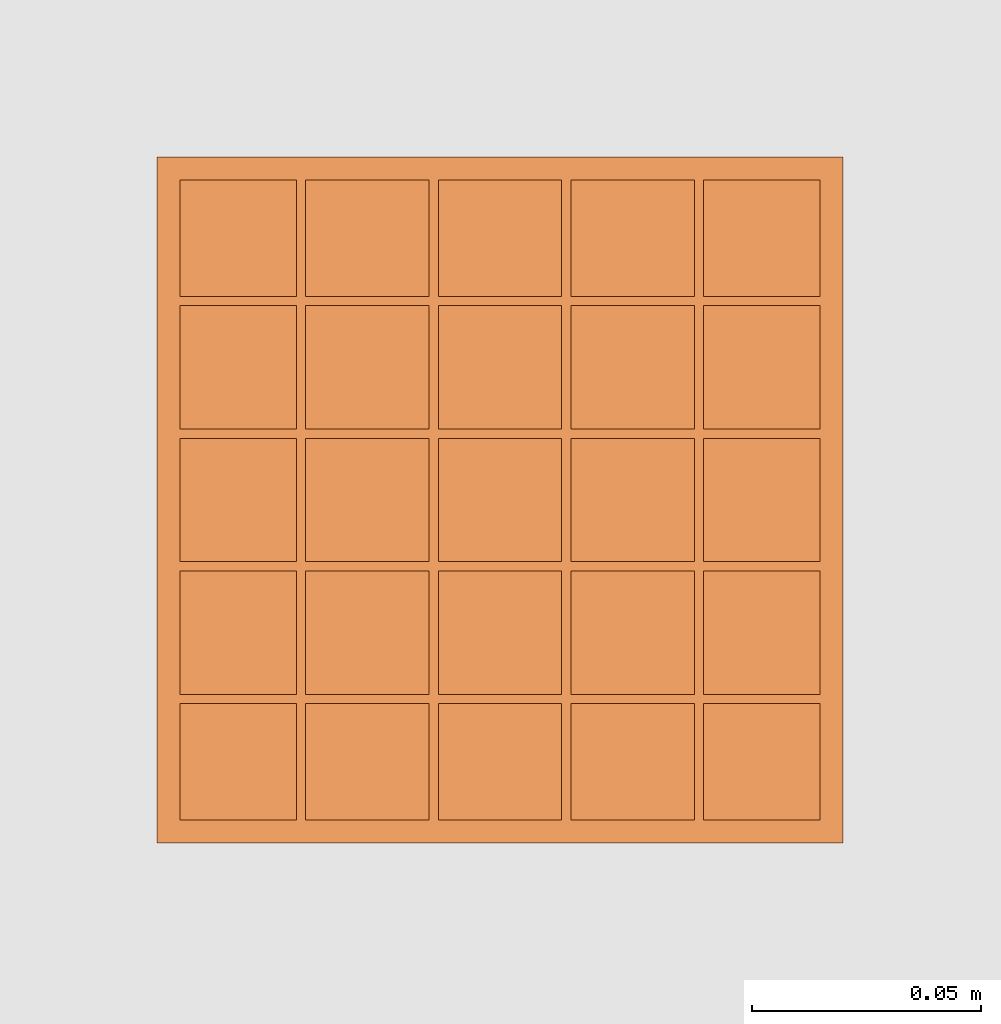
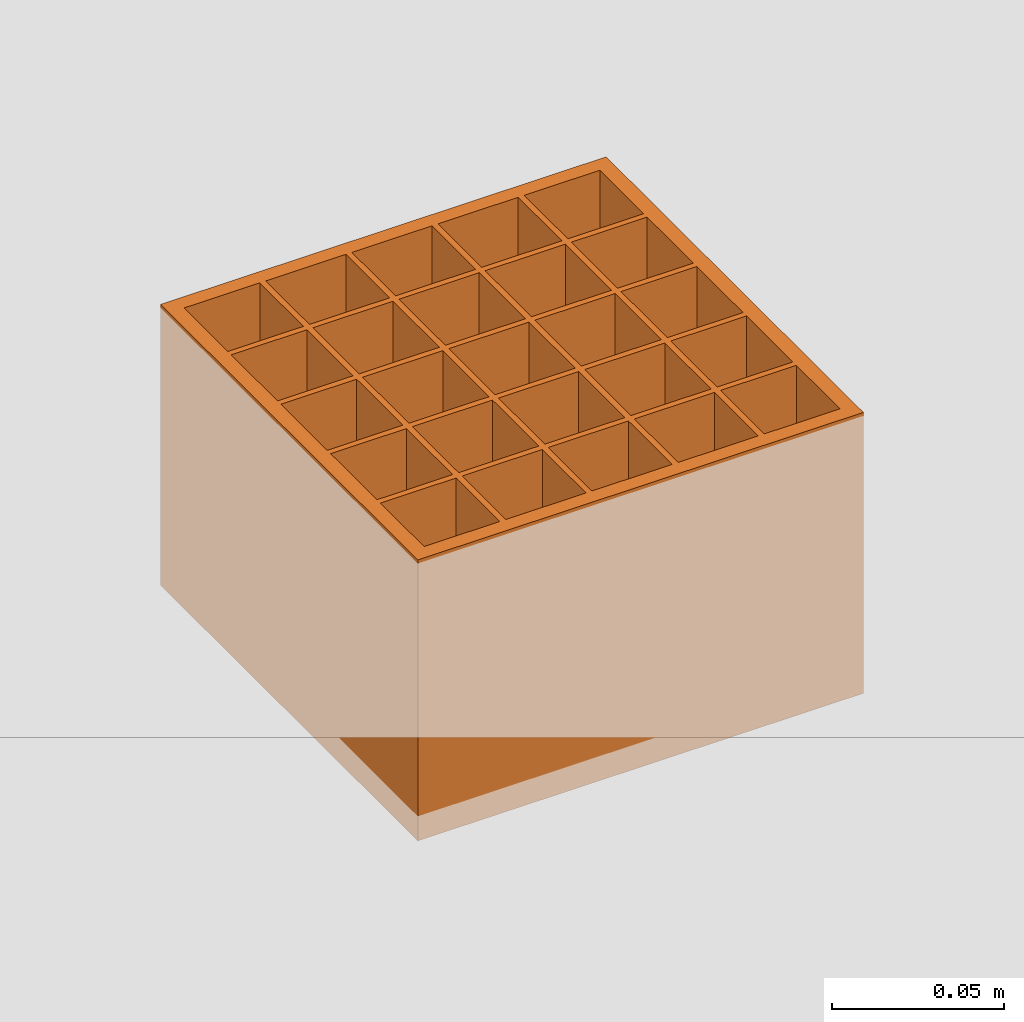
# One storey, part 86 of 100: 1 proxy.
"""IFC2X3 building model written with IfcOpenShell, lengths in millimetres."""

from ifc_helpers import new_model, entity, si_unit, converted_unit, derived_unit, money_unit, direction, frame, origin_with_axes, place, context, subcontext, project, spatial, faceted_brep, source, transform, mapped, type_object, element, save


model = new_model("IFC2X3")

# Units and contexts
model_context = context("Model", 3, precision=0.01, world=origin_with_axes(), true_north=direction((0.0, 1.0)))
body_context = subcontext(model_context, "Body", "Model", "MODEL_VIEW")
ifc_project = project(units=[si_unit("LENGTHUNIT", "METRE", prefix="MILLI"), si_unit("AREAUNIT", "SQUARE_METRE"), si_unit("VOLUMEUNIT", "CUBIC_METRE"), converted_unit("PLANEANGLEUNIT", "DEGREE", entity("IfcPlaneAngleMeasure", 0.0174532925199), si_unit("PLANEANGLEUNIT", "RADIAN"), dimensions=[0, 0, 0, 0, 0, 0, 0]), si_unit("SOLIDANGLEUNIT", "STERADIAN"), money_unit("EUR"), converted_unit("TIMEUNIT", "Year", entity("IfcTimeMeasure", 31556926.0), si_unit("TIMEUNIT", "SECOND"), dimensions=[0, 0, 1, 0, 0, 0, 0]), si_unit("MASSUNIT", "GRAM", prefix="KILO"), si_unit("THERMODYNAMICTEMPERATUREUNIT", "DEGREE_CELSIUS"), si_unit("LUMINOUSINTENSITYUNIT", "LUMEN"), si_unit("ENERGYUNIT", "JOULE", prefix="MEGA"), derived_unit("THERMALCONDUCTANCEUNIT", [(si_unit("POWERUNIT", "WATT"), 1), (si_unit("LENGTHUNIT", "METRE"), -1), (si_unit("THERMODYNAMICTEMPERATUREUNIT", "KELVIN"), -1)]), derived_unit("SPECIFICHEATCAPACITYUNIT", [(si_unit("ENERGYUNIT", "JOULE"), 1), (si_unit("MASSUNIT", "GRAM", prefix="KILO"), -1), (si_unit("THERMODYNAMICTEMPERATUREUNIT", "KELVIN"), -1)]), derived_unit("MASSDENSITYUNIT", [(si_unit("MASSUNIT", "GRAM", prefix="KILO"), 1), (si_unit("VOLUMEUNIT", "CUBIC_METRE"), -1)])], contexts=[model_context])

# Site, building, storey
site_placement = place(None, origin_with_axes())
site = spatial("IfcSite", under=ifc_project, at=site_placement, Name="Politse- ja Piirivalveameti ning Päästeameti ühishoone", CompositionType="ELEMENT")
building_placement = place(site_placement, origin_with_axes())
building = spatial("IfcBuilding", under=site, at=building_placement, Name="Politse- ja Piirivalveameti ning Päästeameti ühishoone", CompositionType="ELEMENT")
storey_placement = place(building_placement, frame((0.0, 0.0, 3800.0), z_axis=(0.0, 0.0, 1.0), x_axis=(1.0, 0.0, 0.0)))
storey = spatial("IfcBuildingStorey", under=building, at=storey_placement, Name="Teine korrus", CompositionType="ELEMENT", Elevation=3800.0)

# Proxy
building_element_proxy_type = type_object("IfcBuildingElementProxyType", Name="Grid 23", PredefinedType="NOTDEFINED")
shared_shape = source(origin_with_axes(), body_context, "Body", "Brep", [
    faceted_brep([(0.0, 0.0, 0.0), (5.0, 5.0, 0.0), (5.0, 5.0, 100.0), (0.0, 0.0, 100.0), (0.0, 150.0, 0.0), (5.0, 145.0, 0.0), (5.0, 119.5, 0.0), (5.0, 117.5, 0.0), (5.0, 90.5, 0.0), (5.0, 88.5, 0.0), (5.0, 61.5, 0.0), (5.0, 59.5, 0.0), (5.0, 32.5, 0.0), (5.0, 30.5, 0.0), (5.0, 30.5, 100.0), (5.0, 32.5, 100.0), (5.0, 59.5, 100.0), (5.0, 61.5, 100.0), (5.0, 88.5, 100.0), (5.0, 90.5, 100.0), (5.0, 117.5, 100.0), (5.0, 119.5, 100.0), (5.0, 145.0, 100.0), (0.0, 150.0, 100.0)], [[[0, 1, 2, 3]], [[0, 4, 5, 6, 7, 8, 9, 10, 11, 12, 13, 1]], [[1, 13, 14, 2]], [[3, 2, 14, 15, 16, 17, 18, 19, 20, 21, 22, 23]], [[4, 0, 3, 23]], [[5, 4, 23, 22]], [[6, 5, 22, 21]], [[7, 6, 21, 20]], [[8, 7, 20, 19]], [[9, 8, 19, 18]], [[10, 9, 18, 17]], [[11, 10, 17, 16]], [[12, 11, 16, 15]], [[13, 12, 15, 14]]]),
    faceted_brep([(150.0, 150.0, 0.0), (145.0, 145.0, 0.0), (145.0, 145.0, 100.0), (150.0, 150.0, 100.0), (150.0, 0.0, 0.0), (145.0, 5.0, 0.0), (145.0, 30.5, 0.0), (145.0, 32.5, 0.0), (145.0, 59.5, 0.0), (145.0, 61.5, 0.0), (145.0, 88.5, 0.0), (145.0, 90.5, 0.0), (145.0, 117.5, 0.0), (145.0, 119.5, 0.0), (145.0, 119.5, 100.0), (145.0, 117.5, 100.0), (145.0, 90.5, 100.0), (145.0, 88.5, 100.0), (145.0, 61.5, 100.0), (145.0, 59.5, 100.0), (145.0, 32.5, 100.0), (145.0, 30.5, 100.0), (145.0, 5.0, 100.0), (150.0, 0.0, 100.0)], [[[0, 1, 2, 3]], [[0, 4, 5, 6, 7, 8, 9, 10, 11, 12, 13, 1]], [[1, 13, 14, 2]], [[3, 2, 14, 15, 16, 17, 18, 19, 20, 21, 22, 23]], [[4, 0, 3, 23]], [[5, 4, 23, 22]], [[6, 5, 22, 21]], [[7, 6, 21, 20]], [[8, 7, 20, 19]], [[9, 8, 19, 18]], [[10, 9, 18, 17]], [[11, 10, 17, 16]], [[12, 11, 16, 15]], [[13, 12, 15, 14]]]),
    faceted_brep([(150.0, 0.0, 0.0), (145.0, 5.0, 0.0), (145.0, 5.0, 100.0), (150.0, 0.0, 100.0), (0.0, 0.0, 0.0), (5.0, 5.0, 0.0), (30.5, 5.0, 0.0), (32.5, 5.0, 0.0), (59.5, 5.0, 0.0), (61.5, 5.0, 0.0), (88.5, 5.0, 0.0), (90.5, 5.0, 0.0), (117.5, 5.0, 0.0), (119.5, 5.0, 0.0), (119.5, 5.0, 100.0), (117.5, 5.0, 100.0), (90.5, 5.0, 100.0), (88.5, 5.0, 100.0), (61.5, 5.0, 100.0), (59.5, 5.0, 100.0), (32.5, 5.0, 100.0), (30.5, 5.0, 100.0), (5.0, 5.0, 100.0), (0.0, 0.0, 100.0)], [[[0, 1, 2, 3]], [[0, 4, 5, 6, 7, 8, 9, 10, 11, 12, 13, 1]], [[1, 13, 14, 2]], [[3, 2, 14, 15, 16, 17, 18, 19, 20, 21, 22, 23]], [[4, 0, 3, 23]], [[5, 4, 23, 22]], [[6, 5, 22, 21]], [[7, 6, 21, 20]], [[8, 7, 20, 19]], [[9, 8, 19, 18]], [[10, 9, 18, 17]], [[11, 10, 17, 16]], [[12, 11, 16, 15]], [[13, 12, 15, 14]]]),
    faceted_brep([(0.0, 150.0, 0.0), (5.0, 145.0, 0.0), (5.0, 145.0, 100.0), (0.0, 150.0, 100.0), (150.0, 150.0, 0.0), (145.0, 145.0, 0.0), (119.5, 145.0, 0.0), (117.5, 145.0, 0.0), (90.5, 145.0, 0.0), (88.5, 145.0, 0.0), (61.5, 145.0, 0.0), (59.5, 145.0, 0.0), (32.5, 145.0, 0.0), (30.5, 145.0, 0.0), (30.5, 145.0, 100.0), (32.5, 145.0, 100.0), (59.5, 145.0, 100.0), (61.5, 145.0, 100.0), (88.5, 145.0, 100.0), (90.5, 145.0, 100.0), (117.5, 145.0, 100.0), (119.5, 145.0, 100.0), (145.0, 145.0, 100.0), (150.0, 150.0, 100.0)], [[[0, 1, 2, 3]], [[0, 4, 5, 6, 7, 8, 9, 10, 11, 12, 13, 1]], [[1, 13, 14, 2]], [[3, 2, 14, 15, 16, 17, 18, 19, 20, 21, 22, 23]], [[4, 0, 3, 23]], [[5, 4, 23, 22]], [[6, 5, 22, 21]], [[7, 6, 21, 20]], [[8, 7, 20, 19]], [[9, 8, 19, 18]], [[10, 9, 18, 17]], [[11, 10, 17, 16]], [[12, 11, 16, 15]], [[13, 12, 15, 14]]]),
    faceted_brep([(30.5, 5.0, 0.0), (32.5, 5.0, 0.0), (32.5, 5.0, 100.0), (30.5, 5.0, 100.0), (30.5, 30.5, 0.0), (30.5, 32.5, 0.0), (30.5, 59.5, 0.0), (30.5, 61.5, 0.0), (30.5, 88.5, 0.0), (30.5, 90.5, 0.0), (30.5, 117.5, 0.0), (30.5, 119.5, 0.0), (30.5, 145.0, 0.0), (32.5, 145.0, 0.0), (32.5, 119.5, 0.0), (32.5, 117.5, 0.0), (32.5, 90.5, 0.0), (32.5, 88.5, 0.0), (32.5, 61.5, 0.0), (32.5, 59.5, 0.0), (32.5, 32.5, 0.0), (32.5, 30.5, 0.0), (32.5, 30.5, 100.0), (32.5, 32.5, 100.0), (32.5, 59.5, 100.0), (32.5, 61.5, 100.0), (32.5, 88.5, 100.0), (32.5, 90.5, 100.0), (32.5, 117.5, 100.0), (32.5, 119.5, 100.0), (32.5, 145.0, 100.0), (30.5, 145.0, 100.0), (30.5, 119.5, 100.0), (30.5, 117.5, 100.0), (30.5, 90.5, 100.0), (30.5, 88.5, 100.0), (30.5, 61.5, 100.0), (30.5, 59.5, 100.0), (30.5, 32.5, 100.0), (30.5, 30.5, 100.0)], [[[0, 1, 2, 3]], [[0, 4, 5, 6, 7, 8, 9, 10, 11, 12, 13, 14, 15, 16, 17, 18, 19, 20, 21, 1]], [[1, 21, 22, 2]], [[3, 2, 22, 23, 24, 25, 26, 27, 28, 29, 30, 31, 32, 33, 34, 35, 36, 37, 38, 39]], [[4, 0, 3, 39]], [[5, 4, 39, 38]], [[6, 5, 38, 37]], [[7, 6, 37, 36]], [[8, 7, 36, 35]], [[9, 8, 35, 34]], [[10, 9, 34, 33]], [[11, 10, 33, 32]], [[12, 11, 32, 31]], [[13, 12, 31, 30]], [[14, 13, 30, 29]], [[15, 14, 29, 28]], [[16, 15, 28, 27]], [[17, 16, 27, 26]], [[18, 17, 26, 25]], [[19, 18, 25, 24]], [[20, 19, 24, 23]], [[21, 20, 23, 22]]]),
    faceted_brep([(59.5, 5.0, 0.0), (61.5, 5.0, 0.0), (61.5, 5.0, 100.0), (59.5, 5.0, 100.0), (59.5, 30.5, 0.0), (59.5, 32.5, 0.0), (59.5, 59.5, 0.0), (59.5, 61.5, 0.0), (59.5, 88.5, 0.0), (59.5, 90.5, 0.0), (59.5, 117.5, 0.0), (59.5, 119.5, 0.0), (59.5, 145.0, 0.0), (61.5, 145.0, 0.0), (61.5, 119.5, 0.0), (61.5, 117.5, 0.0), (61.5, 90.5, 0.0), (61.5, 88.5, 0.0), (61.5, 61.5, 0.0), (61.5, 59.5, 0.0), (61.5, 32.5, 0.0), (61.5, 30.5, 0.0), (61.5, 30.5, 100.0), (61.5, 32.5, 100.0), (61.5, 59.5, 100.0), (61.5, 61.5, 100.0), (61.5, 88.5, 100.0), (61.5, 90.5, 100.0), (61.5, 117.5, 100.0), (61.5, 119.5, 100.0), (61.5, 145.0, 100.0), (59.5, 145.0, 100.0), (59.5, 119.5, 100.0), (59.5, 117.5, 100.0), (59.5, 90.5, 100.0), (59.5, 88.5, 100.0), (59.5, 61.5, 100.0), (59.5, 59.5, 100.0), (59.5, 32.5, 100.0), (59.5, 30.5, 100.0)], [[[0, 1, 2, 3]], [[0, 4, 5, 6, 7, 8, 9, 10, 11, 12, 13, 14, 15, 16, 17, 18, 19, 20, 21, 1]], [[1, 21, 22, 2]], [[3, 2, 22, 23, 24, 25, 26, 27, 28, 29, 30, 31, 32, 33, 34, 35, 36, 37, 38, 39]], [[4, 0, 3, 39]], [[5, 4, 39, 38]], [[6, 5, 38, 37]], [[7, 6, 37, 36]], [[8, 7, 36, 35]], [[9, 8, 35, 34]], [[10, 9, 34, 33]], [[11, 10, 33, 32]], [[12, 11, 32, 31]], [[13, 12, 31, 30]], [[14, 13, 30, 29]], [[15, 14, 29, 28]], [[16, 15, 28, 27]], [[17, 16, 27, 26]], [[18, 17, 26, 25]], [[19, 18, 25, 24]], [[20, 19, 24, 23]], [[21, 20, 23, 22]]]),
    faceted_brep([(88.5, 5.0, 0.0), (90.5, 5.0, 0.0), (90.5, 5.0, 100.0), (88.5, 5.0, 100.0), (88.5, 30.5, 0.0), (88.5, 32.5, 0.0), (88.5, 59.5, 0.0), (88.5, 61.5, 0.0), (88.5, 88.5, 0.0), (88.5, 90.5, 0.0), (88.5, 117.5, 0.0), (88.5, 119.5, 0.0), (88.5, 145.0, 0.0), (90.5, 145.0, 0.0), (90.5, 119.5, 0.0), (90.5, 117.5, 0.0), (90.5, 90.5, 0.0), (90.5, 88.5, 0.0), (90.5, 61.5, 0.0), (90.5, 59.5, 0.0), (90.5, 32.5, 0.0), (90.5, 30.5, 0.0), (90.5, 30.5, 100.0), (90.5, 32.5, 100.0), (90.5, 59.5, 100.0), (90.5, 61.5, 100.0), (90.5, 88.5, 100.0), (90.5, 90.5, 100.0), (90.5, 117.5, 100.0), (90.5, 119.5, 100.0), (90.5, 145.0, 100.0), (88.5, 145.0, 100.0), (88.5, 119.5, 100.0), (88.5, 117.5, 100.0), (88.5, 90.5, 100.0), (88.5, 88.5, 100.0), (88.5, 61.5, 100.0), (88.5, 59.5, 100.0), (88.5, 32.5, 100.0), (88.5, 30.5, 100.0)], [[[0, 1, 2, 3]], [[0, 4, 5, 6, 7, 8, 9, 10, 11, 12, 13, 14, 15, 16, 17, 18, 19, 20, 21, 1]], [[1, 21, 22, 2]], [[3, 2, 22, 23, 24, 25, 26, 27, 28, 29, 30, 31, 32, 33, 34, 35, 36, 37, 38, 39]], [[4, 0, 3, 39]], [[5, 4, 39, 38]], [[6, 5, 38, 37]], [[7, 6, 37, 36]], [[8, 7, 36, 35]], [[9, 8, 35, 34]], [[10, 9, 34, 33]], [[11, 10, 33, 32]], [[12, 11, 32, 31]], [[13, 12, 31, 30]], [[14, 13, 30, 29]], [[15, 14, 29, 28]], [[16, 15, 28, 27]], [[17, 16, 27, 26]], [[18, 17, 26, 25]], [[19, 18, 25, 24]], [[20, 19, 24, 23]], [[21, 20, 23, 22]]]),
    faceted_brep([(117.5, 5.0, 0.0), (119.5, 5.0, 0.0), (119.5, 5.0, 100.0), (117.5, 5.0, 100.0), (117.5, 30.5, 0.0), (117.5, 32.5, 0.0), (117.5, 59.5, 0.0), (117.5, 61.5, 0.0), (117.5, 88.5, 0.0), (117.5, 90.5, 0.0), (117.5, 117.5, 0.0), (117.5, 119.5, 0.0), (117.5, 145.0, 0.0), (119.5, 145.0, 0.0), (119.5, 119.5, 0.0), (119.5, 117.5, 0.0), (119.5, 90.5, 0.0), (119.5, 88.5, 0.0), (119.5, 61.5, 0.0), (119.5, 59.5, 0.0), (119.5, 32.5, 0.0), (119.5, 30.5, 0.0), (119.5, 30.5, 100.0), (119.5, 32.5, 100.0), (119.5, 59.5, 100.0), (119.5, 61.5, 100.0), (119.5, 88.5, 100.0), (119.5, 90.5, 100.0), (119.5, 117.5, 100.0), (119.5, 119.5, 100.0), (119.5, 145.0, 100.0), (117.5, 145.0, 100.0), (117.5, 119.5, 100.0), (117.5, 117.5, 100.0), (117.5, 90.5, 100.0), (117.5, 88.5, 100.0), (117.5, 61.5, 100.0), (117.5, 59.5, 100.0), (117.5, 32.5, 100.0), (117.5, 30.5, 100.0)], [[[0, 1, 2, 3]], [[0, 4, 5, 6, 7, 8, 9, 10, 11, 12, 13, 14, 15, 16, 17, 18, 19, 20, 21, 1]], [[1, 21, 22, 2]], [[3, 2, 22, 23, 24, 25, 26, 27, 28, 29, 30, 31, 32, 33, 34, 35, 36, 37, 38, 39]], [[4, 0, 3, 39]], [[5, 4, 39, 38]], [[6, 5, 38, 37]], [[7, 6, 37, 36]], [[8, 7, 36, 35]], [[9, 8, 35, 34]], [[10, 9, 34, 33]], [[11, 10, 33, 32]], [[12, 11, 32, 31]], [[13, 12, 31, 30]], [[14, 13, 30, 29]], [[15, 14, 29, 28]], [[16, 15, 28, 27]], [[17, 16, 27, 26]], [[18, 17, 26, 25]], [[19, 18, 25, 24]], [[20, 19, 24, 23]], [[21, 20, 23, 22]]]),
    faceted_brep([(30.5, 30.5, 0.0), (30.5, 32.5, 0.0), (30.5, 32.5, 100.0), (30.5, 30.5, 100.0), (5.0, 30.5, 0.0), (5.0, 32.5, 0.0), (5.0, 32.5, 100.0), (5.0, 30.5, 100.0)], [[[0, 1, 2, 3]], [[0, 4, 5, 1]], [[1, 5, 6, 2]], [[3, 2, 6, 7]], [[4, 0, 3, 7]], [[5, 4, 7, 6]]]),
    faceted_brep([(30.5, 59.5, 0.0), (30.5, 61.5, 0.0), (30.5, 61.5, 100.0), (30.5, 59.5, 100.0), (5.0, 59.5, 0.0), (5.0, 61.5, 0.0), (5.0, 61.5, 100.0), (5.0, 59.5, 100.0)], [[[0, 1, 2, 3]], [[0, 4, 5, 1]], [[1, 5, 6, 2]], [[3, 2, 6, 7]], [[4, 0, 3, 7]], [[5, 4, 7, 6]]]),
    faceted_brep([(30.5, 88.5, 0.0), (30.5, 90.5, 0.0), (30.5, 90.5, 100.0), (30.5, 88.5, 100.0), (5.0, 88.5, 0.0), (5.0, 90.5, 0.0), (5.0, 90.5, 100.0), (5.0, 88.5, 100.0)], [[[0, 1, 2, 3]], [[0, 4, 5, 1]], [[1, 5, 6, 2]], [[3, 2, 6, 7]], [[4, 0, 3, 7]], [[5, 4, 7, 6]]]),
    faceted_brep([(30.5, 117.5, 0.0), (30.5, 119.5, 0.0), (30.5, 119.5, 100.0), (30.5, 117.5, 100.0), (5.0, 117.5, 0.0), (5.0, 119.5, 0.0), (5.0, 119.5, 100.0), (5.0, 117.5, 100.0)], [[[0, 1, 2, 3]], [[0, 4, 5, 1]], [[1, 5, 6, 2]], [[3, 2, 6, 7]], [[4, 0, 3, 7]], [[5, 4, 7, 6]]]),
    faceted_brep([(59.5, 30.5, 0.0), (59.5, 32.5, 0.0), (59.5, 32.5, 100.0), (59.5, 30.5, 100.0), (32.5, 30.5, 0.0), (32.5, 32.5, 0.0), (32.5, 32.5, 100.0), (32.5, 30.5, 100.0)], [[[0, 1, 2, 3]], [[0, 4, 5, 1]], [[1, 5, 6, 2]], [[3, 2, 6, 7]], [[4, 0, 3, 7]], [[5, 4, 7, 6]]]),
    faceted_brep([(59.5, 59.5, 0.0), (59.5, 61.5, 0.0), (59.5, 61.5, 100.0), (59.5, 59.5, 100.0), (32.5, 59.5, 0.0), (32.5, 61.5, 0.0), (32.5, 61.5, 100.0), (32.5, 59.5, 100.0)], [[[0, 1, 2, 3]], [[0, 4, 5, 1]], [[1, 5, 6, 2]], [[3, 2, 6, 7]], [[4, 0, 3, 7]], [[5, 4, 7, 6]]]),
    faceted_brep([(59.5, 88.5, 0.0), (59.5, 90.5, 0.0), (59.5, 90.5, 100.0), (59.5, 88.5, 100.0), (32.5, 88.5, 0.0), (32.5, 90.5, 0.0), (32.5, 90.5, 100.0), (32.5, 88.5, 100.0)], [[[0, 1, 2, 3]], [[0, 4, 5, 1]], [[1, 5, 6, 2]], [[3, 2, 6, 7]], [[4, 0, 3, 7]], [[5, 4, 7, 6]]]),
    faceted_brep([(59.5, 117.5, 0.0), (59.5, 119.5, 0.0), (59.5, 119.5, 100.0), (59.5, 117.5, 100.0), (32.5, 117.5, 0.0), (32.5, 119.5, 0.0), (32.5, 119.5, 100.0), (32.5, 117.5, 100.0)], [[[0, 1, 2, 3]], [[0, 4, 5, 1]], [[1, 5, 6, 2]], [[3, 2, 6, 7]], [[4, 0, 3, 7]], [[5, 4, 7, 6]]]),
    faceted_brep([(88.5, 30.5, 0.0), (88.5, 32.5, 0.0), (88.5, 32.5, 100.0), (88.5, 30.5, 100.0), (61.5, 30.5, 0.0), (61.5, 32.5, 0.0), (61.5, 32.5, 100.0), (61.5, 30.5, 100.0)], [[[0, 1, 2, 3]], [[0, 4, 5, 1]], [[1, 5, 6, 2]], [[3, 2, 6, 7]], [[4, 0, 3, 7]], [[5, 4, 7, 6]]]),
    faceted_brep([(88.5, 59.5, 0.0), (88.5, 61.5, 0.0), (88.5, 61.5, 100.0), (88.5, 59.5, 100.0), (61.5, 59.5, 0.0), (61.5, 61.5, 0.0), (61.5, 61.5, 100.0), (61.5, 59.5, 100.0)], [[[0, 1, 2, 3]], [[0, 4, 5, 1]], [[1, 5, 6, 2]], [[3, 2, 6, 7]], [[4, 0, 3, 7]], [[5, 4, 7, 6]]]),
    faceted_brep([(88.5, 88.5, 0.0), (88.5, 90.5, 0.0), (88.5, 90.5, 100.0), (88.5, 88.5, 100.0), (61.5, 88.5, 0.0), (61.5, 90.5, 0.0), (61.5, 90.5, 100.0), (61.5, 88.5, 100.0)], [[[0, 1, 2, 3]], [[0, 4, 5, 1]], [[1, 5, 6, 2]], [[3, 2, 6, 7]], [[4, 0, 3, 7]], [[5, 4, 7, 6]]]),
    faceted_brep([(88.5, 117.5, 0.0), (88.5, 119.5, 0.0), (88.5, 119.5, 100.0), (88.5, 117.5, 100.0), (61.5, 117.5, 0.0), (61.5, 119.5, 0.0), (61.5, 119.5, 100.0), (61.5, 117.5, 100.0)], [[[0, 1, 2, 3]], [[0, 4, 5, 1]], [[1, 5, 6, 2]], [[3, 2, 6, 7]], [[4, 0, 3, 7]], [[5, 4, 7, 6]]]),
    faceted_brep([(117.5, 30.5, 0.0), (117.5, 32.5, 0.0), (117.5, 32.5, 100.0), (117.5, 30.5, 100.0), (90.5, 30.5, 0.0), (90.5, 32.5, 0.0), (90.5, 32.5, 100.0), (90.5, 30.5, 100.0)], [[[0, 1, 2, 3]], [[0, 4, 5, 1]], [[1, 5, 6, 2]], [[3, 2, 6, 7]], [[4, 0, 3, 7]], [[5, 4, 7, 6]]]),
    faceted_brep([(117.5, 59.5, 0.0), (117.5, 61.5, 0.0), (117.5, 61.5, 100.0), (117.5, 59.5, 100.0), (90.5, 59.5, 0.0), (90.5, 61.5, 0.0), (90.5, 61.5, 100.0), (90.5, 59.5, 100.0)], [[[0, 1, 2, 3]], [[0, 4, 5, 1]], [[1, 5, 6, 2]], [[3, 2, 6, 7]], [[4, 0, 3, 7]], [[5, 4, 7, 6]]]),
    faceted_brep([(117.5, 88.5, 0.0), (117.5, 90.5, 0.0), (117.5, 90.5, 100.0), (117.5, 88.5, 100.0), (90.5, 88.5, 0.0), (90.5, 90.5, 0.0), (90.5, 90.5, 100.0), (90.5, 88.5, 100.0)], [[[0, 1, 2, 3]], [[0, 4, 5, 1]], [[1, 5, 6, 2]], [[3, 2, 6, 7]], [[4, 0, 3, 7]], [[5, 4, 7, 6]]]),
    faceted_brep([(117.5, 117.5, 0.0), (117.5, 119.5, 0.0), (117.5, 119.5, 100.0), (117.5, 117.5, 100.0), (90.5, 117.5, 0.0), (90.5, 119.5, 0.0), (90.5, 119.5, 100.0), (90.5, 117.5, 100.0)], [[[0, 1, 2, 3]], [[0, 4, 5, 1]], [[1, 5, 6, 2]], [[3, 2, 6, 7]], [[4, 0, 3, 7]], [[5, 4, 7, 6]]]),
    faceted_brep([(145.0, 30.5, 0.0), (145.0, 32.5, 0.0), (145.0, 32.5, 100.0), (145.0, 30.5, 100.0), (119.5, 30.5, 0.0), (119.5, 32.5, 0.0), (119.5, 32.5, 100.0), (119.5, 30.5, 100.0)], [[[0, 1, 2, 3]], [[0, 4, 5, 1]], [[1, 5, 6, 2]], [[3, 2, 6, 7]], [[4, 0, 3, 7]], [[5, 4, 7, 6]]]),
    faceted_brep([(145.0, 59.5, 0.0), (145.0, 61.5, 0.0), (145.0, 61.5, 100.0), (145.0, 59.5, 100.0), (119.5, 59.5, 0.0), (119.5, 61.5, 0.0), (119.5, 61.5, 100.0), (119.5, 59.5, 100.0)], [[[0, 1, 2, 3]], [[0, 4, 5, 1]], [[1, 5, 6, 2]], [[3, 2, 6, 7]], [[4, 0, 3, 7]], [[5, 4, 7, 6]]]),
    faceted_brep([(145.0, 88.5, 0.0), (145.0, 90.5, 0.0), (145.0, 90.5, 100.0), (145.0, 88.5, 100.0), (119.5, 88.5, 0.0), (119.5, 90.5, 0.0), (119.5, 90.5, 100.0), (119.5, 88.5, 100.0)], [[[0, 1, 2, 3]], [[0, 4, 5, 1]], [[1, 5, 6, 2]], [[3, 2, 6, 7]], [[4, 0, 3, 7]], [[5, 4, 7, 6]]]),
    faceted_brep([(145.0, 117.5, 0.0), (145.0, 119.5, 0.0), (145.0, 119.5, 100.0), (145.0, 117.5, 100.0), (119.5, 117.5, 0.0), (119.5, 119.5, 0.0), (119.5, 119.5, 100.0), (119.5, 117.5, 100.0)], [[[0, 1, 2, 3]], [[0, 4, 5, 1]], [[1, 5, 6, 2]], [[3, 2, 6, 7]], [[4, 0, 3, 7]], [[5, 4, 7, 6]]]),
    faceted_brep([(5.0, 5.0, 43.65), (30.5, 5.0, 43.65), (30.5, 5.0, 56.35), (5.0, 5.0, 56.35), (5.0, 30.5, 43.65), (30.5, 30.5, 43.65), (30.5, 30.5, 56.35), (5.0, 30.5, 56.35)], [[[0, 1, 2, 3]], [[0, 4, 5, 1]], [[1, 5, 6, 2]], [[3, 2, 6, 7]], [[4, 0, 3, 7]], [[5, 4, 7, 6]]]),
    faceted_brep([(5.0, 32.5, 43.65), (30.5, 32.5, 43.65), (30.5, 32.5, 56.35), (5.0, 32.5, 56.35), (5.0, 59.5, 43.65), (30.5, 59.5, 43.65), (30.5, 59.5, 56.35), (5.0, 59.5, 56.35)], [[[0, 1, 2, 3]], [[0, 4, 5, 1]], [[1, 5, 6, 2]], [[3, 2, 6, 7]], [[4, 0, 3, 7]], [[5, 4, 7, 6]]]),
    faceted_brep([(5.0, 61.5, 43.65), (30.5, 61.5, 43.65), (30.5, 61.5, 56.35), (5.0, 61.5, 56.35), (5.0, 88.5, 43.65), (30.5, 88.5, 43.65), (30.5, 88.5, 56.35), (5.0, 88.5, 56.35)], [[[0, 1, 2, 3]], [[0, 4, 5, 1]], [[1, 5, 6, 2]], [[3, 2, 6, 7]], [[4, 0, 3, 7]], [[5, 4, 7, 6]]]),
    faceted_brep([(5.0, 90.5, 43.65), (30.5, 90.5, 43.65), (30.5, 90.5, 56.35), (5.0, 90.5, 56.35), (5.0, 117.5, 43.65), (30.5, 117.5, 43.65), (30.5, 117.5, 56.35), (5.0, 117.5, 56.35)], [[[0, 1, 2, 3]], [[0, 4, 5, 1]], [[1, 5, 6, 2]], [[3, 2, 6, 7]], [[4, 0, 3, 7]], [[5, 4, 7, 6]]]),
    faceted_brep([(5.0, 119.5, 43.65), (30.5, 119.5, 43.65), (30.5, 119.5, 56.35), (5.0, 119.5, 56.35), (5.0, 145.0, 43.65), (30.5, 145.0, 43.65), (30.5, 145.0, 56.35), (5.0, 145.0, 56.35)], [[[0, 1, 2, 3]], [[0, 4, 5, 1]], [[1, 5, 6, 2]], [[3, 2, 6, 7]], [[4, 0, 3, 7]], [[5, 4, 7, 6]]]),
    faceted_brep([(32.5, 5.0, 43.65), (59.5, 5.0, 43.65), (59.5, 5.0, 56.35), (32.5, 5.0, 56.35), (32.5, 30.5, 43.65), (59.5, 30.5, 43.65), (59.5, 30.5, 56.35), (32.5, 30.5, 56.35)], [[[0, 1, 2, 3]], [[0, 4, 5, 1]], [[1, 5, 6, 2]], [[3, 2, 6, 7]], [[4, 0, 3, 7]], [[5, 4, 7, 6]]]),
    faceted_brep([(32.5, 32.5, 43.65), (59.5, 32.5, 43.65), (59.5, 32.5, 56.35), (32.5, 32.5, 56.35), (32.5, 59.5, 43.65), (59.5, 59.5, 43.65), (59.5, 59.5, 56.35), (32.5, 59.5, 56.35)], [[[0, 1, 2, 3]], [[0, 4, 5, 1]], [[1, 5, 6, 2]], [[3, 2, 6, 7]], [[4, 0, 3, 7]], [[5, 4, 7, 6]]]),
    faceted_brep([(32.5, 61.5, 43.65), (59.5, 61.5, 43.65), (59.5, 61.5, 56.35), (32.5, 61.5, 56.35), (32.5, 88.5, 43.65), (59.5, 88.5, 43.65), (59.5, 88.5, 56.35), (32.5, 88.5, 56.35)], [[[0, 1, 2, 3]], [[0, 4, 5, 1]], [[1, 5, 6, 2]], [[3, 2, 6, 7]], [[4, 0, 3, 7]], [[5, 4, 7, 6]]]),
    faceted_brep([(32.5, 90.5, 43.65), (59.5, 90.5, 43.65), (59.5, 90.5, 56.35), (32.5, 90.5, 56.35), (32.5, 117.5, 43.65), (59.5, 117.5, 43.65), (59.5, 117.5, 56.35), (32.5, 117.5, 56.35)], [[[0, 1, 2, 3]], [[0, 4, 5, 1]], [[1, 5, 6, 2]], [[3, 2, 6, 7]], [[4, 0, 3, 7]], [[5, 4, 7, 6]]]),
    faceted_brep([(32.5, 119.5, 43.65), (59.5, 119.5, 43.65), (59.5, 119.5, 56.35), (32.5, 119.5, 56.35), (32.5, 145.0, 43.65), (59.5, 145.0, 43.65), (59.5, 145.0, 56.35), (32.5, 145.0, 56.35)], [[[0, 1, 2, 3]], [[0, 4, 5, 1]], [[1, 5, 6, 2]], [[3, 2, 6, 7]], [[4, 0, 3, 7]], [[5, 4, 7, 6]]]),
    faceted_brep([(61.5, 5.0, 43.65), (88.5, 5.0, 43.65), (88.5, 5.0, 56.35), (61.5, 5.0, 56.35), (61.5, 30.5, 43.65), (88.5, 30.5, 43.65), (88.5, 30.5, 56.35), (61.5, 30.5, 56.35)], [[[0, 1, 2, 3]], [[0, 4, 5, 1]], [[1, 5, 6, 2]], [[3, 2, 6, 7]], [[4, 0, 3, 7]], [[5, 4, 7, 6]]]),
    faceted_brep([(61.5, 32.5, 43.65), (88.5, 32.5, 43.65), (88.5, 32.5, 56.35), (61.5, 32.5, 56.35), (61.5, 59.5, 43.65), (88.5, 59.5, 43.65), (88.5, 59.5, 56.35), (61.5, 59.5, 56.35)], [[[0, 1, 2, 3]], [[0, 4, 5, 1]], [[1, 5, 6, 2]], [[3, 2, 6, 7]], [[4, 0, 3, 7]], [[5, 4, 7, 6]]]),
    faceted_brep([(61.5, 61.5, 43.65), (88.5, 61.5, 43.65), (88.5, 61.5, 56.35), (61.5, 61.5, 56.35), (61.5, 88.5, 43.65), (88.5, 88.5, 43.65), (88.5, 88.5, 56.35), (61.5, 88.5, 56.35)], [[[0, 1, 2, 3]], [[0, 4, 5, 1]], [[1, 5, 6, 2]], [[3, 2, 6, 7]], [[4, 0, 3, 7]], [[5, 4, 7, 6]]]),
    faceted_brep([(61.5, 90.5, 43.65), (88.5, 90.5, 43.65), (88.5, 90.5, 56.35), (61.5, 90.5, 56.35), (61.5, 117.5, 43.65), (88.5, 117.5, 43.65), (88.5, 117.5, 56.35), (61.5, 117.5, 56.35)], [[[0, 1, 2, 3]], [[0, 4, 5, 1]], [[1, 5, 6, 2]], [[3, 2, 6, 7]], [[4, 0, 3, 7]], [[5, 4, 7, 6]]]),
    faceted_brep([(61.5, 119.5, 43.65), (88.5, 119.5, 43.65), (88.5, 119.5, 56.35), (61.5, 119.5, 56.35), (61.5, 145.0, 43.65), (88.5, 145.0, 43.65), (88.5, 145.0, 56.35), (61.5, 145.0, 56.35)], [[[0, 1, 2, 3]], [[0, 4, 5, 1]], [[1, 5, 6, 2]], [[3, 2, 6, 7]], [[4, 0, 3, 7]], [[5, 4, 7, 6]]]),
    faceted_brep([(90.5, 5.0, 43.65), (117.5, 5.0, 43.65), (117.5, 5.0, 56.35), (90.5, 5.0, 56.35), (90.5, 30.5, 43.65), (117.5, 30.5, 43.65), (117.5, 30.5, 56.35), (90.5, 30.5, 56.35)], [[[0, 1, 2, 3]], [[0, 4, 5, 1]], [[1, 5, 6, 2]], [[3, 2, 6, 7]], [[4, 0, 3, 7]], [[5, 4, 7, 6]]]),
    faceted_brep([(90.5, 32.5, 43.65), (117.5, 32.5, 43.65), (117.5, 32.5, 56.35), (90.5, 32.5, 56.35), (90.5, 59.5, 43.65), (117.5, 59.5, 43.65), (117.5, 59.5, 56.35), (90.5, 59.5, 56.35)], [[[0, 1, 2, 3]], [[0, 4, 5, 1]], [[1, 5, 6, 2]], [[3, 2, 6, 7]], [[4, 0, 3, 7]], [[5, 4, 7, 6]]]),
    faceted_brep([(90.5, 61.5, 43.65), (117.5, 61.5, 43.65), (117.5, 61.5, 56.35), (90.5, 61.5, 56.35), (90.5, 88.5, 43.65), (117.5, 88.5, 43.65), (117.5, 88.5, 56.35), (90.5, 88.5, 56.35)], [[[0, 1, 2, 3]], [[0, 4, 5, 1]], [[1, 5, 6, 2]], [[3, 2, 6, 7]], [[4, 0, 3, 7]], [[5, 4, 7, 6]]]),
    faceted_brep([(90.5, 90.5, 43.65), (117.5, 90.5, 43.65), (117.5, 90.5, 56.35), (90.5, 90.5, 56.35), (90.5, 117.5, 43.65), (117.5, 117.5, 43.65), (117.5, 117.5, 56.35), (90.5, 117.5, 56.35)], [[[0, 1, 2, 3]], [[0, 4, 5, 1]], [[1, 5, 6, 2]], [[3, 2, 6, 7]], [[4, 0, 3, 7]], [[5, 4, 7, 6]]]),
    faceted_brep([(90.5, 119.5, 43.65), (117.5, 119.5, 43.65), (117.5, 119.5, 56.35), (90.5, 119.5, 56.35), (90.5, 145.0, 43.65), (117.5, 145.0, 43.65), (117.5, 145.0, 56.35), (90.5, 145.0, 56.35)], [[[0, 1, 2, 3]], [[0, 4, 5, 1]], [[1, 5, 6, 2]], [[3, 2, 6, 7]], [[4, 0, 3, 7]], [[5, 4, 7, 6]]]),
    faceted_brep([(119.5, 5.0, 43.65), (145.0, 5.0, 43.65), (145.0, 5.0, 56.35), (119.5, 5.0, 56.35), (119.5, 30.5, 43.65), (145.0, 30.5, 43.65), (145.0, 30.5, 56.35), (119.5, 30.5, 56.35)], [[[0, 1, 2, 3]], [[0, 4, 5, 1]], [[1, 5, 6, 2]], [[3, 2, 6, 7]], [[4, 0, 3, 7]], [[5, 4, 7, 6]]]),
    faceted_brep([(119.5, 32.5, 43.65), (145.0, 32.5, 43.65), (145.0, 32.5, 56.35), (119.5, 32.5, 56.35), (119.5, 59.5, 43.65), (145.0, 59.5, 43.65), (145.0, 59.5, 56.35), (119.5, 59.5, 56.35)], [[[0, 1, 2, 3]], [[0, 4, 5, 1]], [[1, 5, 6, 2]], [[3, 2, 6, 7]], [[4, 0, 3, 7]], [[5, 4, 7, 6]]]),
    faceted_brep([(119.5, 61.5, 43.65), (145.0, 61.5, 43.65), (145.0, 61.5, 56.35), (119.5, 61.5, 56.35), (119.5, 88.5, 43.65), (145.0, 88.5, 43.65), (145.0, 88.5, 56.35), (119.5, 88.5, 56.35)], [[[0, 1, 2, 3]], [[0, 4, 5, 1]], [[1, 5, 6, 2]], [[3, 2, 6, 7]], [[4, 0, 3, 7]], [[5, 4, 7, 6]]]),
    faceted_brep([(119.5, 90.5, 43.65), (145.0, 90.5, 43.65), (145.0, 90.5, 56.35), (119.5, 90.5, 56.35), (119.5, 117.5, 43.65), (145.0, 117.5, 43.65), (145.0, 117.5, 56.35), (119.5, 117.5, 56.35)], [[[0, 1, 2, 3]], [[0, 4, 5, 1]], [[1, 5, 6, 2]], [[3, 2, 6, 7]], [[4, 0, 3, 7]], [[5, 4, 7, 6]]]),
    faceted_brep([(119.5, 119.5, 43.65), (145.0, 119.5, 43.65), (145.0, 119.5, 56.35), (119.5, 119.5, 56.35), (119.5, 145.0, 43.65), (145.0, 145.0, 43.65), (145.0, 145.0, 56.35), (119.5, 145.0, 56.35)], [[[0, 1, 2, 3]], [[0, 4, 5, 1]], [[1, 5, 6, 2]], [[3, 2, 6, 7]], [[4, 0, 3, 7]], [[5, 4, 7, 6]]]),
])
proxy_placement = place(storey_placement, frame((58697.411958, 18919.9083055, -100.0), z_axis=(0.0, 0.0, 1.0), x_axis=(1.0, 0.0, 0.0)))
element("IfcBuildingElementProxy", 1, at=proxy_placement, inside=storey, type_object=building_element_proxy_type, Name="Trapp (210)", context=body_context, shape_type="MappedRepresentation", body=[
    mapped(shared_shape, transform((0.0, 0.0, 0.0))),
])

save(model, "model.ifc")
